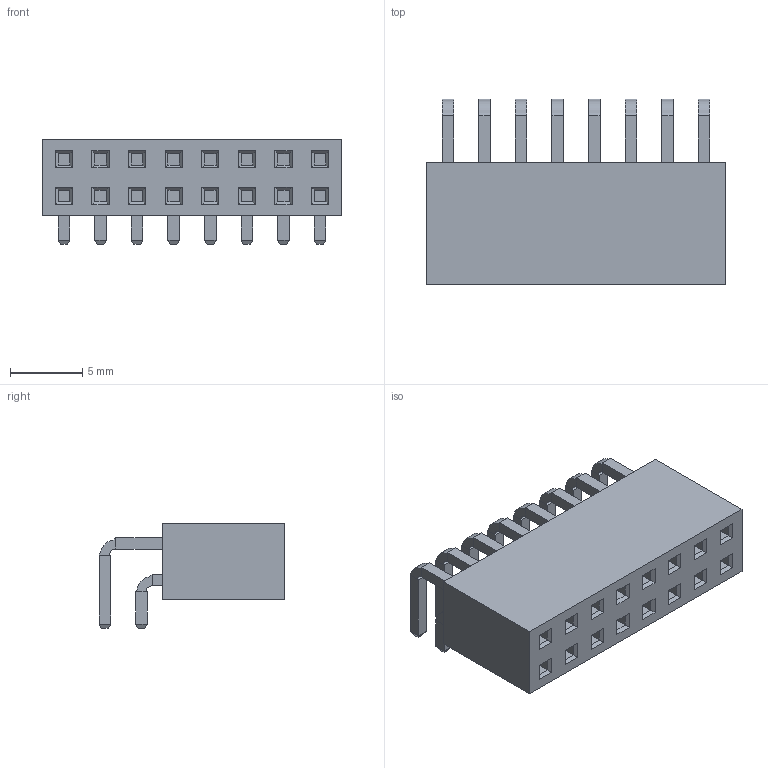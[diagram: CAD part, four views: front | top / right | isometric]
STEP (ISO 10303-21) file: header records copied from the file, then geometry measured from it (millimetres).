
FILE_DESCRIPTION (( 'STEP AP214' ), '1' );
FILE_NAME ( 'RHDRRA16W80P254_8X2_2082X850H528.STEP', '2021-10-06T06:48:58', ( '' ), ( '' ), '', '©2017 PCB Libraries, Inc.', '' );
FILE_SCHEMA (( 'AUTOMOTIVE_DESIGN' ));
Length unit declared in the file: millimetre
Products named in the file (1): RHDRRA16W80P254_8X2_2082X850H528
Bounding box: 20.82 x 12.9 x 7.28 mm (x, y, z)
Volume: 939.1 mm3; surface area: 1332.6 mm2
Topology: 17 solids, 17 shells, 438 faces, 908 edges, 520 vertices
Faces by surface type: plane 406, cylinder 32
Entity records: 12117 total; most frequent: CARTESIAN_POINT 1867, DIRECTION 1850, ORIENTED_EDGE 1816, EDGE_CURVE 908, VECTOR 844, LINE 844, VERTEX_POINT 520, AXIS2_PLACEMENT_3D 503
